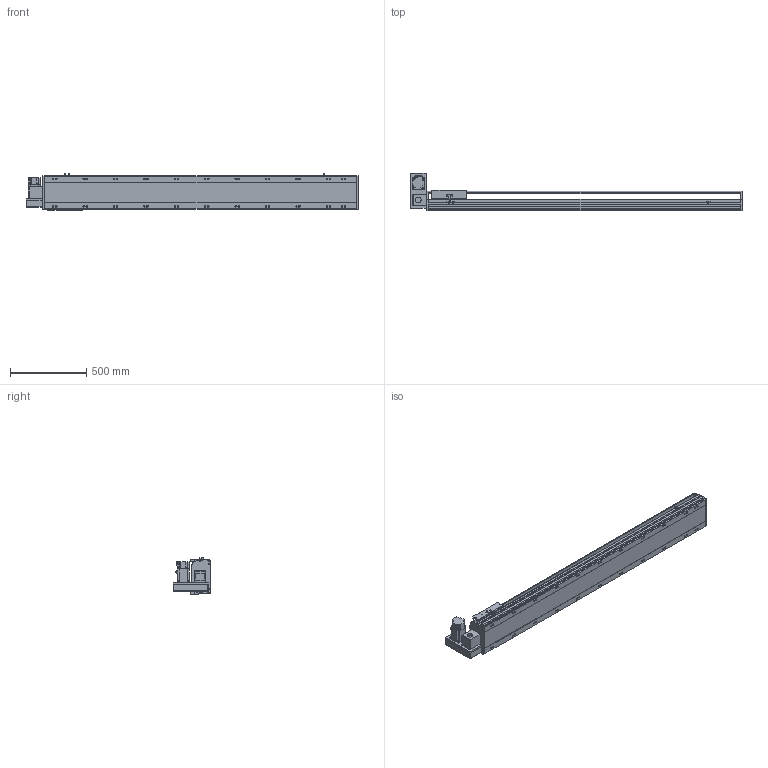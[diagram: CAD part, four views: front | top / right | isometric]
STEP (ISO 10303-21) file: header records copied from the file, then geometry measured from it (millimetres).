
FILE_DESCRIPTION(/* description */ ('STEP AP214'),/* implementation_level */ '2;1');
FILE_NAME(/* name */ 'PBS220-P40-S1700-LU-T75-C1-N(0)',/* time_stamp */ '2022-06-13T02:30:41+02:00',/* author */ ('License CC BY-ND 4.0'),/* organization */ ('CADENAS'),/* preprocessor_version */ 'ST-DEVELOPER v18.102',/* originating_system */ 'PARTsolutions',/* authorisation */ ' ');
FILE_SCHEMA (('AUTOMOTIVE_DESIGN {1 0 10303 214 3 1 1}'));
Length unit declared in the file: millimetre
Products named in the file (7): PBS220-P40-S1700-LU-T75-C1-N(0); PBS220_sensor; PBS220_plant; PBS220_sliser; T75-p1; PBS220T-LU_motors; PBS220-S1700()_body
Assembly tree (8 placements, depth 2):
  PBS220-P40-S1700-LU-T75-C1-N(0)
    PBS220_sensor  x3
    PBS220_plant
    PBS220_sliser
    T75-p1
    PBS220T-LU_motors
    PBS220-S1700()_body
Bounding box: 2184 x 247 x 238.5 mm (x, y, z)
Volume: 30882465.4 mm3; surface area: 2903212.1 mm2
Topology: 8 solids, 8 shells, 950 faces, 2480 edges, 1612 vertices
Faces by surface type: plane 610, cylinder 294, cone 46
Full cylindrical faces by diameter (mm): 2.013 x4, 4.5 x14, 4.917 x4, 6 x7, 6.647 x8, 8 x10, 8.376 x22, 8.5 x22, 10 x6, 14 x22, 38 x2, 40 x1, 70 x1
Entity records: 26565 total; most frequent: CARTESIAN_POINT 4690, DIRECTION 4617, ORIENTED_EDGE 4214, EDGE_CURVE 2107, AXIS2_PLACEMENT_3D 1633, VERTEX_POINT 1464, LINE 1351, VECTOR 1351
